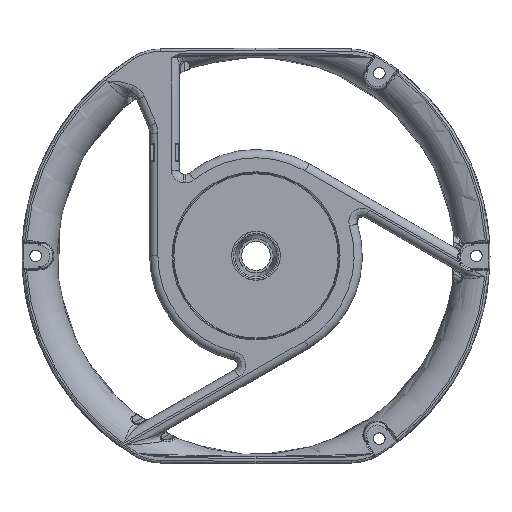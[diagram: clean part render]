
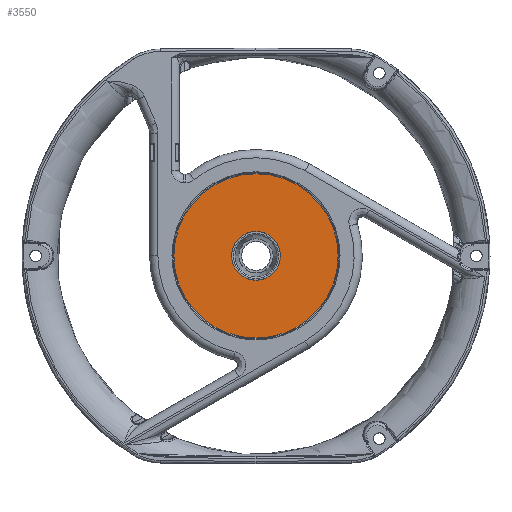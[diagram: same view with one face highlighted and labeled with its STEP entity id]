
A CAD part, top view. The second image highlights one B-rep face of the part: STEP entity #3550.
In plain terms, the highlighted planar face has unit normal (0, 0, 1).
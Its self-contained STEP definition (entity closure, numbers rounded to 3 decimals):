
#3550=ADVANCED_FACE('',(#5447,#5448),#4385,.T.);
#4385=PLANE('',#23326);
#5146=CIRCLE('',#23300,8.955);
#5158=CIRCLE('',#23324,30.186);
#5447=FACE_BOUND('',#6294,.T.);
#5448=FACE_BOUND('',#6295,.T.);
#6294=EDGE_LOOP('',(#12397));
#6295=EDGE_LOOP('',(#12398));
#12397=ORIENTED_EDGE('',*,*,#19371,.F.);
#12398=ORIENTED_EDGE('',*,*,#19336,.T.);
#16639=VERTEX_POINT('',#47210);
#16664=VERTEX_POINT('',#47358);
#19336=EDGE_CURVE('',#16639,#16639,#5146,.T.);
#19371=EDGE_CURVE('',#16664,#16664,#5158,.T.);
#23300=AXIS2_PLACEMENT_3D('',#47209,#26095,#26096);
#23324=AXIS2_PLACEMENT_3D('',#47357,#26153,#26154);
#23326=AXIS2_PLACEMENT_3D('',#47360,#26157,#26158);
#26095=DIRECTION('',(0.,0.,-1.));
#26096=DIRECTION('',(1.,0.,0.));
#26153=DIRECTION('',(0.,0.,-1.));
#26154=DIRECTION('',(1.,0.,0.));
#26157=DIRECTION('',(0.,0.,1.));
#26158=DIRECTION('',(0.,1.,0.));
#47209=CARTESIAN_POINT('',(0.,0.,
2.266));
#47210=CARTESIAN_POINT('',(8.955,0.,2.266));
#47357=CARTESIAN_POINT('',(0.,0.,2.266));
#47358=CARTESIAN_POINT('',(30.186,0.,2.266));
#47360=CARTESIAN_POINT('',(0.,0.,2.266));
